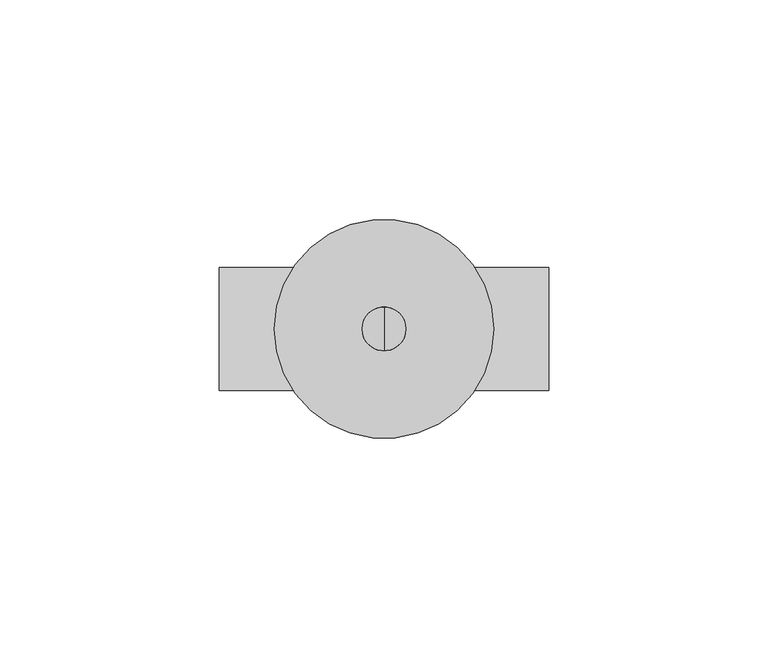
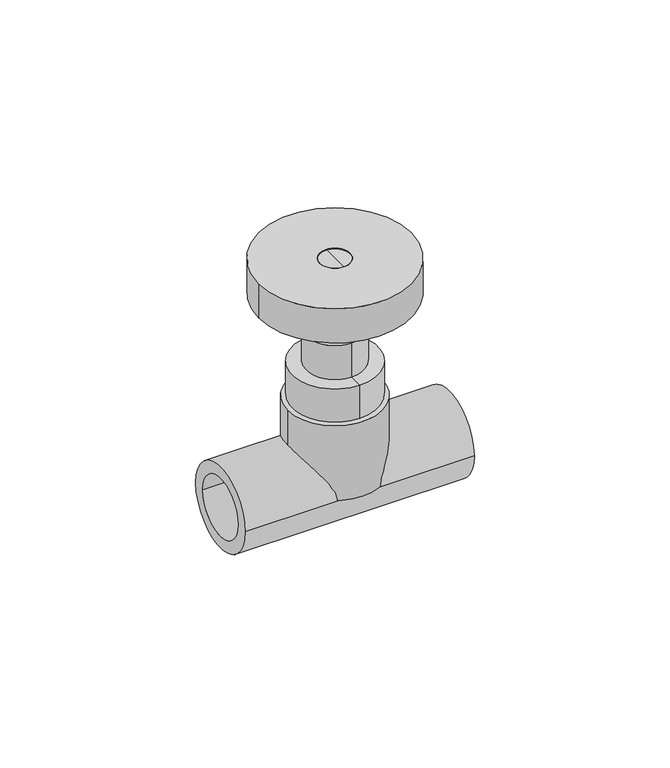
"""IFC4 building model written with IfcOpenShell, lengths in millimetres: valve geometry, EGB_VASEN_ PPR_Valvula de corte con volante WXR830 : Válvula de corte con volante WXR830."""

from ifc_helpers import new_model, si_unit, point, frame, origin, origin_with_axes, origin_2d, place, context, project, spatial, polyline, circle_curve, trimmed, segment, composite_curve, outline, extrude, source, transform, mapped, element, save
from ifc_brep_helpers import plane_surface, cylinder_surface, revolved_surface, advanced_brep


def valve_bb8f75bf(model_context):
    return source(origin(), model_context, "Body", "SolidModel", [
        extrude(outline(composite_curve([segment(trimmed(circle_curve(origin_2d(), 15.4), [point((-15.4, 0.0))], [point((15.4, 0.0))], False, "CARTESIAN"), True, "CONTINUOUS"), segment(trimmed(circle_curve(origin_2d(), 15.4), [point((15.4, 0.0))], [point((-15.4, 0.0))], False, "CARTESIAN"), True, "CONTINUOUS")], self_intersect=False)), origin_with_axes(), (0.0, 0.0, 1.0), 25.8),
        extrude(outline(composite_curve([segment(trimmed(circle_curve(origin_2d(), 14.0), [point((-14.0, 0.0))], [point((14.0, 0.0))], False, "CARTESIAN"), True, "CONTINUOUS"), segment(trimmed(circle_curve(origin_2d(), 14.0), [point((14.0, 0.0))], [point((-14.0, 0.0))], False, "CARTESIAN"), True, "CONTINUOUS")], self_intersect=False), holes=[composite_curve([segment(trimmed(circle_curve(origin_2d(), 10.0), [point((-10.0, 0.0))], [point((10.0, 0.0))], True, "CARTESIAN"), True, "CONTINUOUS"), segment(trimmed(circle_curve(origin_2d(), 10.0), [point((10.0, 0.0))], [point((-10.0, 0.0))], True, "CARTESIAN"), True, "CONTINUOUS")], self_intersect=False)]), frame((-37.5, 0.0, 0.0), z_axis=(1.0, 0.0, 0.0), x_axis=(0.0, 1.0, 0.0)), (0.0, 0.0, 1.0), 75.0),
        extrude(outline(composite_curve([segment(trimmed(circle_curve(origin_2d(), 25.0), [point((25.0, 0.0))], [point((-25.0, 0.0))], False, "CARTESIAN"), True, "CONTINUOUS"), segment(trimmed(circle_curve(origin_2d(), 25.0), [point((-25.0, 0.0))], [point((25.0, 0.0))], False, "CARTESIAN"), True, "CONTINUOUS")], self_intersect=False), holes=[composite_curve([segment(trimmed(circle_curve(origin_2d(), 5.0), [point((5.0, 0.0))], [point((-5.0, 0.0))], True, "CARTESIAN"), True, "CONTINUOUS"), segment(trimmed(circle_curve(origin_2d(), 5.0), [point((-5.0, 0.0))], [point((5.0, 0.0))], True, "CARTESIAN"), True, "CONTINUOUS")], self_intersect=False)]), frame((0.0, 0.0, 61.2), z_axis=(0.0, 0.0, 1.0), x_axis=(1.0, 0.0, 0.0)), (0.0, 0.0, 1.0), 11.8),
        advanced_brep(
        [(0.0, -9.5, 37.6), (0.0, 9.5, 37.6), (0.0, 14.0, 37.6), (0.0, -14.0, 37.6), (0.0, -9.5, 49.4), (0.0, 9.5, 49.4), (0.0, -5.0, 54.1272839), (0.0, 5.0, 54.1272839), (0.0, -5.0, 73.0), (0.0, 5.0, 73.0), (0.0, 0.0, 73.0), (0.0, -14.0, 25.8), (0.0, 14.0, 25.8), (0.0, 0.0, 25.8)],
        [
            (0, 1, circle_curve(frame((0.0, 0.0, 37.6), z_axis=(0.0, 0.0, -1.0), x_axis=(0.0, 1.0, 0.0)), 9.5)),
            (1, 2),
            (2, 3, circle_curve(frame((0.0, 0.0, 37.6), z_axis=(0.0, 0.0, 1.0), x_axis=(0.0, 1.0, 0.0)), 14.0)),
            (3, 0),
            (1, 0, circle_curve(frame((0.0, 0.0, 37.6), z_axis=(0.0, 0.0, -1.0), x_axis=(0.0, 1.0, 0.0)), 9.5)),
            (3, 2, circle_curve(frame((0.0, 0.0, 37.6), z_axis=(0.0, 0.0, 1.0), x_axis=(0.0, 1.0, 0.0)), 14.0)),
            (4, 5, circle_curve(frame((0.0, 0.0, 49.4), z_axis=(0.0, 0.0, -1.0), x_axis=(0.0, 1.0, 0.0)), 9.5)),
            (5, 1),
            (0, 4),
            (5, 4, circle_curve(frame((0.0, 0.0, 49.4), z_axis=(0.0, 0.0, -1.0), x_axis=(0.0, 1.0, 0.0)), 9.5)),
            (6, 7, circle_curve(frame((0.0, 0.0, 54.1272839), z_axis=(0.0, 0.0, -1.0), x_axis=(0.0, 1.0, 0.0)), 5.0)),
            (7, 5),
            (4, 6),
            (7, 6, circle_curve(frame((0.0, 0.0, 54.1272839), z_axis=(0.0, 0.0, -1.0), x_axis=(0.0, 1.0, 0.0)), 5.0)),
            (8, 9, circle_curve(frame((0.0, 0.0, 73.0), z_axis=(0.0, 0.0, -1.0), x_axis=(0.0, 1.0, 0.0)), 5.0)),
            (9, 7),
            (6, 8),
            (9, 8, circle_curve(frame((0.0, 0.0, 73.0), z_axis=(0.0, 0.0, -1.0), x_axis=(0.0, 1.0, 0.0)), 5.0)),
            (10, 9),
            (8, 10),
            (11, 12, circle_curve(frame((0.0, 0.0, 25.8), z_axis=(0.0, 0.0, -1.0), x_axis=(0.0, 1.0, 0.0)), 14.0)),
            (12, 13),
            (13, 11),
            (12, 11, circle_curve(frame((0.0, 0.0, 25.8), z_axis=(0.0, 0.0, -1.0), x_axis=(0.0, 1.0, 0.0)), 14.0)),
            (2, 12),
            (11, 3),
        ],
        [
            plane_surface(frame((0.0, 0.0, 37.6), z_axis=(0.0, 0.0, 1.0), x_axis=(0.0, 1.0, 0.0))),
            cylinder_surface(frame((0.0, 0.0, 88.0), z_axis=(0.0, 0.0, 1.0), x_axis=(0.0, 1.0, 0.0)), 9.5),
            revolved_surface(polyline([(0.0, 9.5, 49.4), (0.0, 5.0, 54.1272839)]), (0.0, 0.0, 88.0), (0.0, 0.0, 1.0)),
            cylinder_surface(frame((0.0, 0.0, 88.0), z_axis=(0.0, 0.0, 1.0), x_axis=(0.0, 1.0, 0.0)), 5.0),
            plane_surface(frame((0.0, 0.0, 73.0), z_axis=(0.0, 0.0, 1.0), x_axis=(0.0, 1.0, 0.0))),
            plane_surface(frame((0.0, 0.0, 25.8), z_axis=(0.0, 0.0, -1.0), x_axis=(0.0, 1.0, 0.0))),
            cylinder_surface(frame((0.0, 0.0, 88.0), z_axis=(0.0, 0.0, 1.0), x_axis=(0.0, 1.0, 0.0)), 14.0),
        ],
        [
            (0, [[1, 2, 3, 4]]),
            (0, [[5, -4, 6, -2]]),
            (1, [[7, 8, -1, 9]]),
            (1, [[10, -9, -5, -8]]),
            (2, [[11, 12, -7, 13]]),
            (2, [[14, -13, -10, -12]]),
            (3, [[15, 16, -11, 17]]),
            (3, [[18, -17, -14, -16]]),
            (4, [[19, -15, 20]]),
            (4, [[-20, -18, -19]]),
            (5, [[21, 22, 23]]),
            (5, [[24, -23, -22]]),
            (6, [[-3, 25, -21, 26]]),
            (6, [[-6, -26, -24, -25]]),
        ],
    ),
    ])


if __name__ == "__main__":
    model = new_model("IFC4")
    model_context = context("Model", 3, world=origin())
    ifc_project = project(units=[si_unit("LENGTHUNIT", "METRE", prefix="MILLI")], contexts=[model_context])
    site = spatial("IfcSite", under=ifc_project)
    building = spatial("IfcBuilding", under=site)
    placement = place(None, origin())
    valve_shape = valve_bb8f75bf(model_context)
    element("IfcValve", 1, ObjectType="EGB_VASEN_ PPR_Valvula de corte con volante WXR830 : Válvula de corte con volante WXR830", at=placement, inside=building, context=model_context, shape_type="MappedRepresentation", body=[
        mapped(valve_shape, transform((0.0, 0.0, 0.0), x_axis=(1.0, 0.0, 0.0), y_axis=(0.0, 1.0, 0.0), z_axis=(0.0, 0.0, 1.0))),
    ])
    save(model, "model.ifc")
